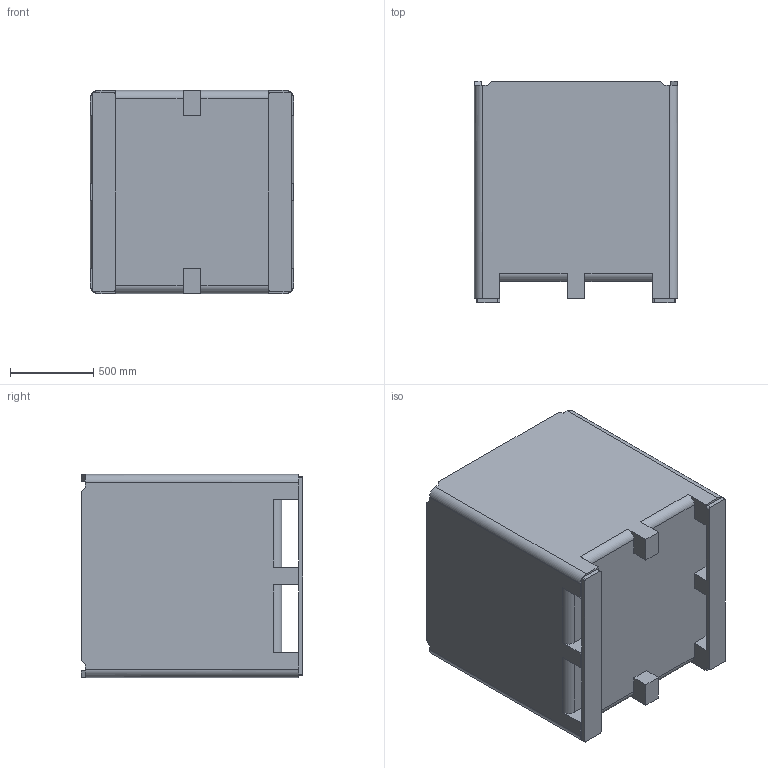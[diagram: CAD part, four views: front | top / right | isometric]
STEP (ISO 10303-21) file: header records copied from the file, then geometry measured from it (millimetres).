
FILE_DESCRIPTION (( 'STEP AP214' ), '1' );
FILE_NAME ('48FV Block Model.STEP', '2013-06-03T14:47:56', ( 'Bryant Conder' ), ( '' ), 'SwSTEP 2.0', 'SolidWorks 2013', '' );
FILE_SCHEMA (( 'AUTOMOTIVE_DESIGN' ));
Length unit declared in the file: inch
Products named in the file (1): 48FV Block Model
Bounding box: 1222.38 x 1333.5 x 1222.38 mm (x, y, z)
Volume: 292498332.4 mm3; surface area: 14911793.8 mm2
Topology: 1 solids, 1 shells, 102 faces, 308 edges, 196 vertices
Faces by surface type: plane 66, cylinder 32, sphere 4
Entity records: 3456 total; most frequent: ORIENTED_EDGE 608, CARTESIAN_POINT 603, DIRECTION 582, EDGE_CURVE 304, LINE 232, VECTOR 232, VERTEX_POINT 196, AXIS2_PLACEMENT_3D 175
